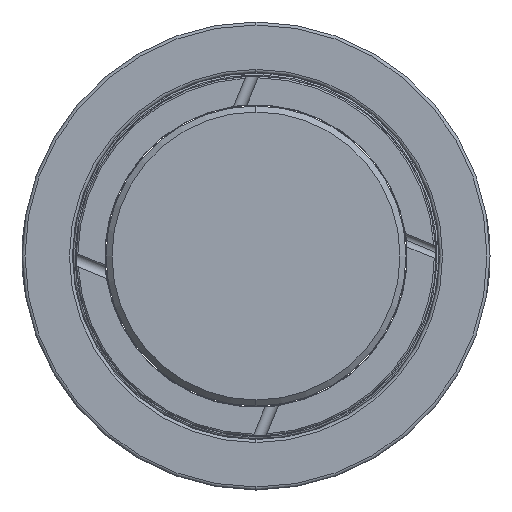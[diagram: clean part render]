
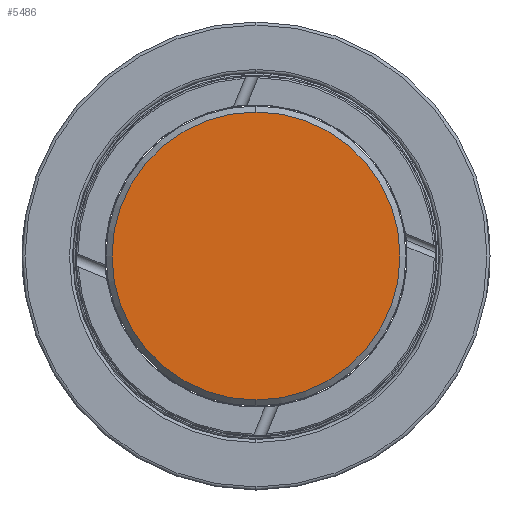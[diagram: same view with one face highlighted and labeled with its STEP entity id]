
A CAD part, left-side view. The second image highlights one B-rep face of the part: STEP entity #5486.
In plain terms, the highlighted planar face has unit normal (-1, 0, 0).
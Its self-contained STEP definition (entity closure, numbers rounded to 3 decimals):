
#162 = AXIS2_PLACEMENT_3D ( 'NONE', #1152, #5082, #5680 ) ;
#995 = CARTESIAN_POINT ( 'NONE',  ( -10., 0., -24. ) ) ;
#1152 = CARTESIAN_POINT ( 'NONE',  ( -10., 0., 0. ) ) ;
#1203 = AXIS2_PLACEMENT_3D ( 'NONE', #3408, #1264, #5107 ) ;
#1264 = DIRECTION ( 'NONE',  ( 1., 0., 0. ) ) ;
#1410 = FACE_OUTER_BOUND ( 'NONE', #3333, .T. ) ;
#1892 = EDGE_CURVE ( 'NONE', #3430, #2971, #4397, .T. ) ;
#2292 = CIRCLE ( 'NONE', #4181, 24. ) ;
#2971 = VERTEX_POINT ( 'NONE', #995 ) ;
#3333 = EDGE_LOOP ( 'NONE', ( #5489, #5507 ) ) ;
#3408 = CARTESIAN_POINT ( 'NONE',  ( -10., 0., 0. ) ) ;
#3430 = VERTEX_POINT ( 'NONE', #3951 ) ;
#3742 = EDGE_CURVE ( 'NONE', #2971, #3430, #2292, .T. ) ;
#3951 = CARTESIAN_POINT ( 'NONE',  ( -10., 0., 24. ) ) ;
#4181 = AXIS2_PLACEMENT_3D ( 'NONE', #6062, #4854, #5419 ) ;
#4397 = CIRCLE ( 'NONE', #162, 24. ) ;
#4854 = DIRECTION ( 'NONE',  ( -1., 0., 0. ) ) ;
#5082 = DIRECTION ( 'NONE',  ( -1., 0., 0. ) ) ;
#5107 = DIRECTION ( 'NONE',  ( 0., 0., -1. ) ) ;
#5419 = DIRECTION ( 'NONE',  ( 0., 0., -1. ) ) ;
#5486 = ADVANCED_FACE ( 'NONE', ( #1410 ), #6411, .F. ) ;
#5489 = ORIENTED_EDGE ( 'NONE', *, *, #3742, .T. ) ;
#5507 = ORIENTED_EDGE ( 'NONE', *, *, #1892, .T. ) ;
#5680 = DIRECTION ( 'NONE',  ( 0., 0., -1. ) ) ;
#6062 = CARTESIAN_POINT ( 'NONE',  ( -10., 0., 0. ) ) ;
#6411 = PLANE ( 'NONE',  #1203 ) ;
